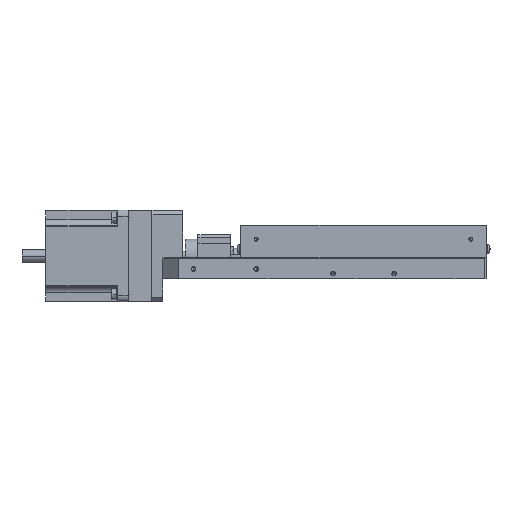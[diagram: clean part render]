
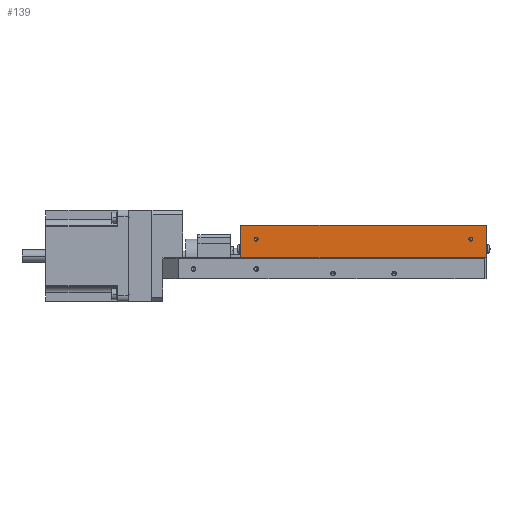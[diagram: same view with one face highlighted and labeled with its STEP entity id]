
A CAD part, front view. The second image highlights one B-rep face of the part: STEP entity #139.
In plain terms, the highlighted planar face has unit normal (0, -1, 0).
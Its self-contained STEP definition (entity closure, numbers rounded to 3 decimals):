
#139=ADVANCED_FACE('',(#3459,#3460,#3461),#3458,.T.);
#3458=PLANE('',#34064);
#3459=FACE_OUTER_BOUND('',#34065,.T.);
#3460=FACE_BOUND('',#34066,.T.);
#3461=FACE_BOUND('',#34067,.T.);
#34061=CARTESIAN_POINT('',(90.,-62.,37.1));
#34062=DIRECTION('',(0.,-1.,0.));
#34063=DIRECTION('',(-1.,0.,0.));
#34064=AXIS2_PLACEMENT_3D('',#34061,#34062,#34063);
#34065=EDGE_LOOP('',(#53502,#53503,#53504,#53505));
#34066=EDGE_LOOP('',(#53506,#53507));
#34067=EDGE_LOOP('',(#53508,#53509));
#53502=ORIENTED_EDGE('',*,*,#67943,.F.);
#53503=ORIENTED_EDGE('',*,*,#67953,.F.);
#53504=ORIENTED_EDGE('',*,*,#67927,.T.);
#53505=ORIENTED_EDGE('',*,*,#68002,.T.);
#53506=ORIENTED_EDGE('',*,*,#68075,.F.);
#53507=ORIENTED_EDGE('',*,*,#68076,.F.);
#53508=ORIENTED_EDGE('',*,*,#68077,.F.);
#53509=ORIENTED_EDGE('',*,*,#68078,.F.);
#67927=EDGE_CURVE('',#75648,#75649,#75650,.T.);
#67943=EDGE_CURVE('',#75753,#75760,#75761,.T.);
#67953=EDGE_CURVE('',#75648,#75753,#75828,.T.);
#68002=EDGE_CURVE('',#75649,#75760,#76166,.T.);
#68075=EDGE_CURVE('',#76674,#76675,#76676,.T.);
#68076=EDGE_CURVE('',#76675,#76674,#76682,.T.);
#68077=EDGE_CURVE('',#76688,#76689,#76690,.T.);
#68078=EDGE_CURVE('',#76689,#76688,#76696,.T.);
#75648=VERTEX_POINT('',#123827);
#75649=VERTEX_POINT('',#123828);
#75650=LINE('',#123829,#123830);
#75753=VERTEX_POINT('',#123891);
#75760=VERTEX_POINT('',#123895);
#75761=LINE('',#123896,#123897);
#75828=LINE('',#123937,#123938);
#76166=LINE('',#124174,#124175);
#76674=VERTEX_POINT('',#124533);
#76675=VERTEX_POINT('',#124534);
#76676=CIRCLE('',#124538,1.3);
#76682=CIRCLE('',#124542,1.3);
#76688=VERTEX_POINT('',#124543);
#76689=VERTEX_POINT('',#124544);
#76690=CIRCLE('',#124548,1.3);
#76696=CIRCLE('',#124552,1.3);
#123827=CARTESIAN_POINT('',(80.,-62.,14.));
#123828=CARTESIAN_POINT('',(80.,-62.,35.));
#123829=CARTESIAN_POINT('',(80.,-62.,14.));
#123830=VECTOR('',#123831,21.);
#123831=DIRECTION('',(0.,0.,1.));
#123891=CARTESIAN_POINT('',(-80.,-62.,14.));
#123895=CARTESIAN_POINT('',(-80.,-62.,35.));
#123896=CARTESIAN_POINT('',(-80.,-62.,14.));
#123897=VECTOR('',#123898,21.);
#123898=DIRECTION('',(0.,0.,1.));
#123937=CARTESIAN_POINT('',(80.,-62.,14.));
#123938=VECTOR('',#123939,160.);
#123939=DIRECTION('',(-1.,0.,0.));
#124174=CARTESIAN_POINT('',(80.,-62.,35.));
#124175=VECTOR('',#124176,160.);
#124176=DIRECTION('',(-1.,0.,0.));
#124533=CARTESIAN_POINT('',(-69.802,-62.,24.715));
#124534=CARTESIAN_POINT('',(-70.198,-62.,27.285));
#124535=CARTESIAN_POINT('',(-70.,-62.,26.));
#124536=DIRECTION('',(0.,-1.,0.));
#124537=DIRECTION('',(-0.152,0.,0.988));
#124538=AXIS2_PLACEMENT_3D('',#124535,#124536,#124537);
#124539=CARTESIAN_POINT('',(-70.,-62.,26.));
#124540=DIRECTION('',(0.,-1.,0.));
#124541=DIRECTION('',(-0.152,0.,0.988));
#124542=AXIS2_PLACEMENT_3D('',#124539,#124540,#124541);
#124543=CARTESIAN_POINT('',(69.975,-62.,24.7));
#124544=CARTESIAN_POINT('',(70.025,-62.,27.3));
#124545=CARTESIAN_POINT('',(70.,-62.,26.));
#124546=DIRECTION('',(0.,-1.,0.));
#124547=DIRECTION('',(0.019,0.,1.));
#124548=AXIS2_PLACEMENT_3D('',#124545,#124546,#124547);
#124549=CARTESIAN_POINT('',(70.,-62.,26.));
#124550=DIRECTION('',(0.,-1.,0.));
#124551=DIRECTION('',(0.019,0.,1.));
#124552=AXIS2_PLACEMENT_3D('',#124549,#124550,#124551);
